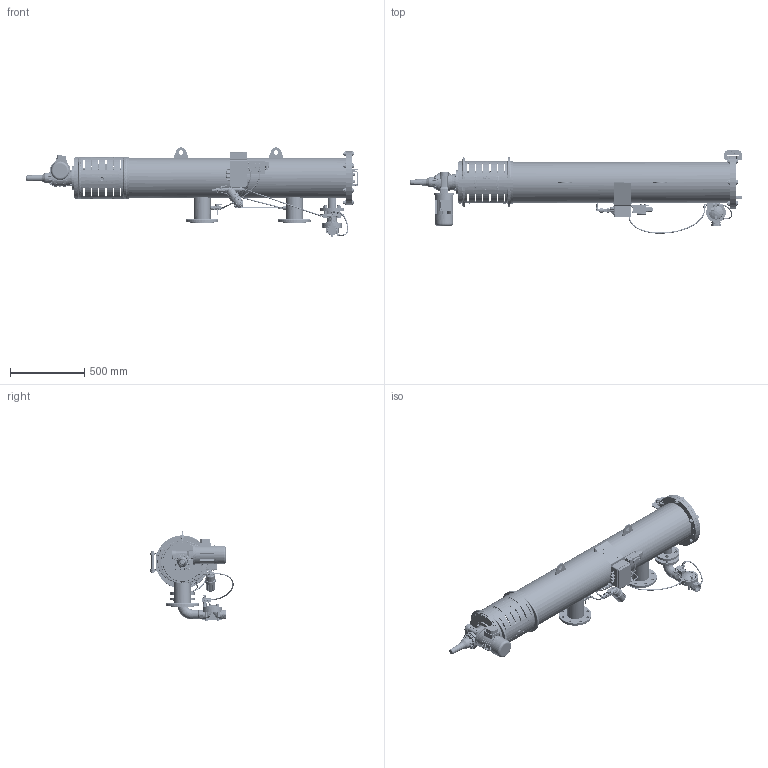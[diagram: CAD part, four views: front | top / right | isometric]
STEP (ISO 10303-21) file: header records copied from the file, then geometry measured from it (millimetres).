
FILE_DESCRIPTION (( 'STEP AP214' ), '1' );
FILE_NAME ('041045-000024.STEP', '2023-02-07T12:04:02', ( '' ), ( '' ), 'SwSTEP 2.0', 'SolidWorks 2019', '' );
FILE_SCHEMA (( 'AUTOMOTIVE_DESIGN' ));
Length unit declared in the file: millimetre
Products named in the file (1): 041045-000024
Bounding box: 2232.82 x 559.97 x 600.36 mm (x, y, z)
Volume: 23328470.2 mm3; surface area: 6570085.9 mm2
Topology: 250 solids, 255 shells, 16770 faces, 40675 edges, 24637 vertices
Faces by surface type: plane 7539, bspline 3287, cylinder 2887, torus 1379, cone 1316, sphere 362
Full cylindrical faces by diameter (mm): 1.2 x10, 2 x2, 2.381 x2, 3 x2, 3.141 x1, 3.5 x5, 3.9 x4, 4 x21, 4.166 x2, 4.2 x1, 4.3 x1, 4.4 x2, 4.7 x2, 4.75 x12, 4.762 x1, 4.763 x1, 4.773 x5, 4.917 x2, 5 x20, 5.7 x9, 6 x25, 6.2 x3, 6.5 x14, 6.6 x3, 6.858 x2, 7 x11, 7.137 x20, 7.187 x1, 7.5 x2, 7.95 x10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
Entity records: 887664 total; most frequent: CARTESIAN_POINT 350989, ORIENTED_EDGE 76330, DIRECTION 65392, EDGE_CURVE 38165, AXIS2_PLACEMENT_3D 25438, VERTEX_POINT 24159, EDGE_LOOP 19734, FACE_OUTER_BOUND 17822
